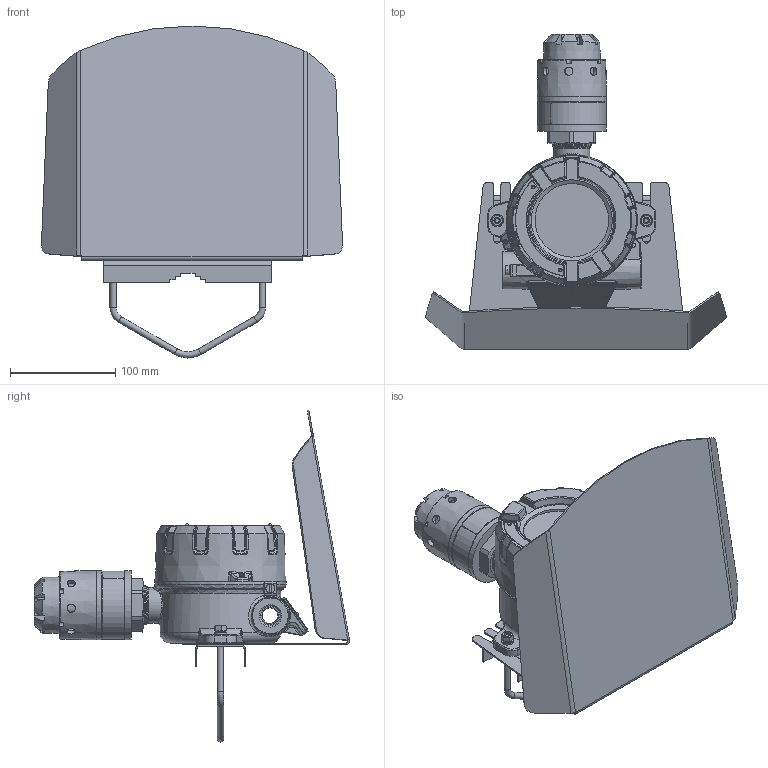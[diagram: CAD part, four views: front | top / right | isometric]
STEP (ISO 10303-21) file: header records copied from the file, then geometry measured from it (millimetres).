
FILE_DESCRIPTION(('STEP AP214'), '1');
FILE_NAME('ÄÃÑ ÝÐÈÑ-210 (êîðïóñ òèïà Á) ñ êîìïëåêòîì äëÿ êðåïëåíèÿ è êîçûðüêîì_3D ìîäåëü', '', ('UNSPECIFIED'), ('UNSPECIFIED'), 'C3D Converter', 'C3D Toolkit', '');
FILE_SCHEMA(('AUTOMOTIVE_DESIGN { 1 0 10303 214 3 1 1}'));
Length unit declared in the file: millimetre
Products named in the file (1): АПНС.413216.212
Bounding box: 286.61 x 299.82 x 315.95 mm (x, y, z)
Volume: 917475.7 mm3; surface area: 500426.1 mm2
Topology: 40 solids, 40 shells, 1717 faces, 4299 edges, 2644 vertices
Faces by surface type: plane 558, bspline 455, cylinder 409, cone 185, torus 96, sphere 14
Full cylindrical faces by diameter (mm): 0.8 x3, 1.4 x9, 2 x9, 2.459 x11, 2.5 x4, 3.242 x2, 3.5 x2, 3.6 x4, 4 x3, 4.134 x1, 4.5 x1, 4.917 x2, 5 x2, 5.064 x1, 6 x5, 6.4 x2, 7 x1, 7.5 x1, 7.95 x8, 8.5 x1, 10 x1, 10.106 x1, 10.15 x1, 11.4 x1, 12 x2, 17 x1, 18.376 x3, 20 x1, 30 x3, 32 x2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
Entity records: 123021 total; most frequent: CARTESIAN_POINT 73305, ORIENTED_EDGE 8008, DIRECTION 5920, EDGE_CURVE 4004, VERTEX_POINT 2624, AXIS2_PLACEMENT_3D 2369, EDGE_LOOP 2076, COLOUR_RGB 1757
